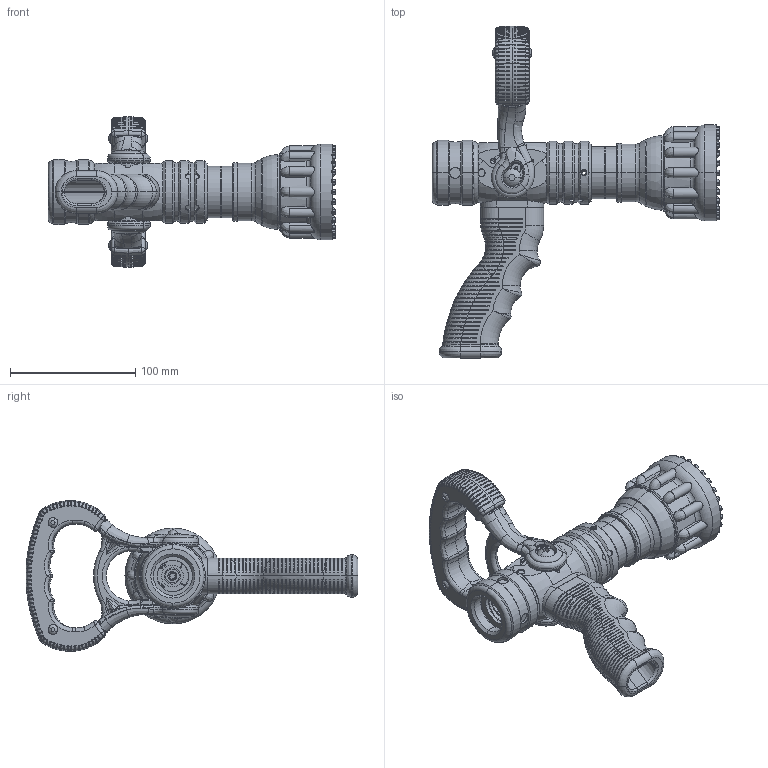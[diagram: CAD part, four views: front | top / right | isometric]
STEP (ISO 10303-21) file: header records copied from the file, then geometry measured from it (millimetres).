
FILE_DESCRIPTION (( 'STEP AP203' ), '1' );
FILE_NAME ('ME0-VPGI.STEP', '2016-08-15T20:38:40', ( '' ), ( '' ), 'SwSTEP 2.0', 'SolidWorks 2015', '' );
FILE_SCHEMA (( 'CONFIG_CONTROL_DESIGN' ));
Products named in the file (1): ME0-VPGI
Bounding box: 229.74 x 265.44 x 120.41 mm (x, y, z)
Surface area: 132685 mm2 (no closed solid volume)
Topology: 0 solids, 99 shells, 2515 faces, 10363 edges, 7444 vertices
Faces by surface type: cylinder 736, plane 725, bspline 633, torus 272, cone 95, sphere 54
Entity records: 149417 total; most frequent: CARTESIAN_POINT 76336, ORIENTED_EDGE 16388, DIRECTION 11520, EDGE_CURVE 10322, VERTEX_POINT 7444, B_SPLINE_CURVE_WITH_KNOTS 4924, AXIS2_PLACEMENT_3D 4285, VECTOR 2950
